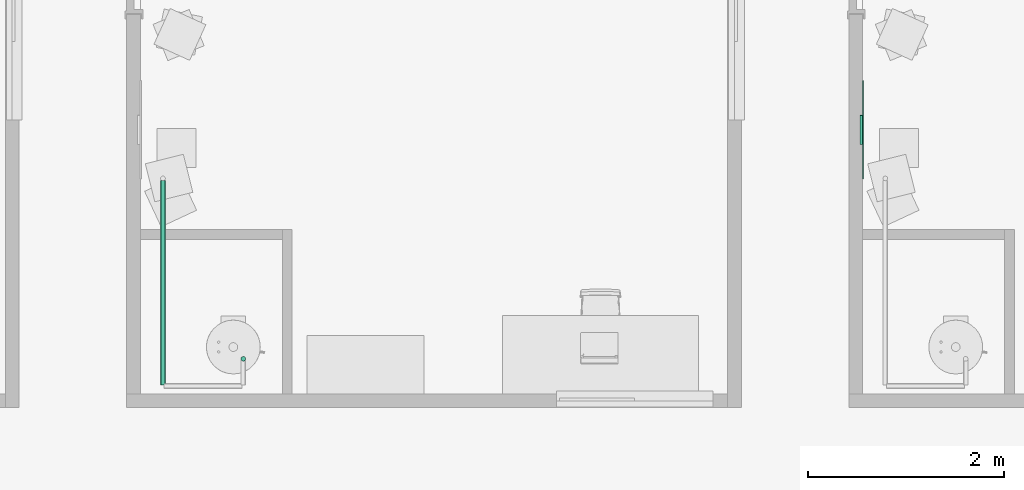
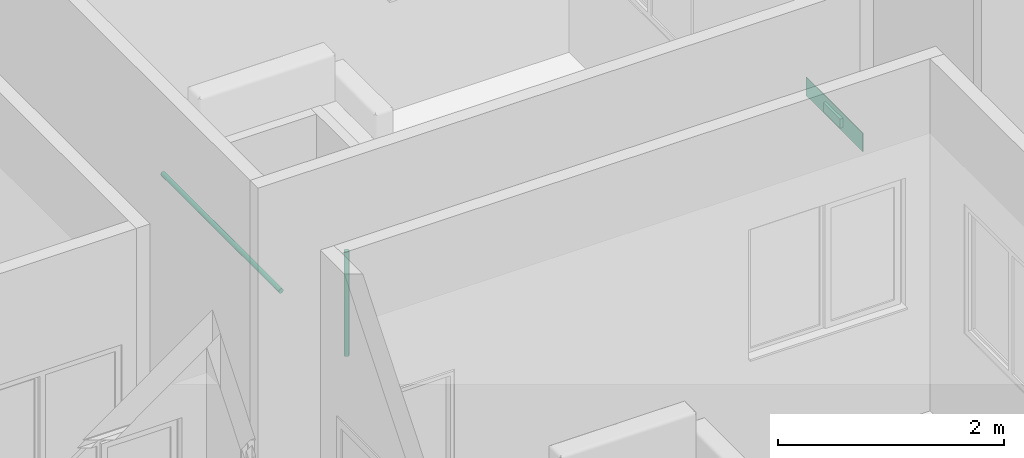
# One storey, part 29 of 72: 2 pipe segments, 1 air terminal.
"""IFC4 building model written with IfcOpenShell, lengths in centimetres."""

from ifc_helpers import new_model, entity, si_unit, converted_unit, derived_unit, direction, frame, origin, place, context, subcontext, project, spatial, arc, indexed_curve, outline, extrude, source, transform, mapped, material, constituent, constituent_set, type_object, type_shapes, element, save


model = new_model("IFC4")

# Units and contexts
model_context = context("Model", 3, precision=0.001, world=origin(), true_north=direction((6.123233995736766e-17, 1.0)))
body_context = subcontext(model_context, "Body", "Model", "MODEL_VIEW")
ifc_project = project(units=[si_unit("LENGTHUNIT", "METRE", prefix="CENTI"), si_unit("AREAUNIT", "SQUARE_METRE"), si_unit("VOLUMEUNIT", "CUBIC_METRE"), derived_unit("THERMALTRANSMITTANCEUNIT", [(si_unit("MASSUNIT", "GRAM", prefix="KILO"), 1), (si_unit("THERMODYNAMICTEMPERATUREUNIT", "KELVIN"), -1), (si_unit("TIMEUNIT", "SECOND"), -3)]), converted_unit("PLANEANGLEUNIT", "DEGREE", entity("IfcPlaneAngleMeasure", 0.017453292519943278), si_unit("PLANEANGLEUNIT", "RADIAN"), dimensions=[0, 0, 0, 0, 0, 0, 0]), derived_unit("MASSDENSITYUNIT", [(si_unit("MASSUNIT", "GRAM", prefix="KILO"), 1), (si_unit("LENGTHUNIT", "METRE"), -3)]), derived_unit("VAPORPERMEABILITYUNIT", [(si_unit("LENGTHUNIT", "METRE"), -1), (si_unit("TIMEUNIT", "SECOND"), 1)]), derived_unit("USERDEFINED", [(si_unit("MASSUNIT", "GRAM", prefix="KILO"), 1), (si_unit("TIMEUNIT", "SECOND"), -3), (si_unit("LENGTHUNIT", "METRE"), 3), (si_unit("ELECTRICCURRENTUNIT", "AMPERE"), -2)]), derived_unit("SPECIFICHEATCAPACITYUNIT", [(si_unit("THERMODYNAMICTEMPERATUREUNIT", "KELVIN"), -1), (si_unit("LENGTHUNIT", "METRE"), 2), (si_unit("TIMEUNIT", "SECOND"), -2)]), derived_unit("THERMALCONDUCTANCEUNIT", [(si_unit("MASSUNIT", "GRAM", prefix="KILO"), 1), (si_unit("THERMODYNAMICTEMPERATUREUNIT", "KELVIN"), -1), (si_unit("TIMEUNIT", "SECOND"), -3), (si_unit("LENGTHUNIT", "METRE"), 1)]), si_unit("PRESSUREUNIT", "PASCAL"), derived_unit("MODULUSOFELASTICITYUNIT", [(si_unit("MASSUNIT", "GRAM", prefix="KILO"), 1), (si_unit("LENGTHUNIT", "METRE"), -1), (si_unit("TIMEUNIT", "SECOND"), -2)]), derived_unit("THERMALEXPANSIONCOEFFICIENTUNIT", [(si_unit("THERMODYNAMICTEMPERATUREUNIT", "KELVIN"), -1)])], contexts=[model_context])

# Site, building, storey, space
site_placement = place(None, origin())
site = spatial("IfcSite", under=ifc_project, at=site_placement, Name="Default", CompositionType="ELEMENT")
building_placement = place(site_placement, origin())
building = spatial("IfcBuilding", under=site, at=building_placement, Name="IDS Escape Game Building", CompositionType="ELEMENT")
storey_placement = place(building_placement, frame((0.0, 0.0, 800.0)))
storey = spatial("IfcBuildingStorey", under=building, at=storey_placement, Name="02_Second Floor", CompositionType="ELEMENT", Elevation=800.0)
space_placement = place(storey_placement, origin())
space = spatial("IfcSpace", under=storey, at=space_placement, Name="94", CompositionType="ELEMENT", PredefinedType="NOTDEFINED")

# Air terminal
ifc_material_1 = material(Name="TB_LVC_referentievlak_00_gen_BERSnl", Category="BE Default")
ifc_constituent_1 = constituent(ifc_material_1, Name="TB_LVC_referentievlak_00_gen_BERSnl", Category="BE Default", fraction=0.00014157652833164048)
ifc_material_2 = material(Name="ARC_FME.h2_staal_00_gen_BERSnl", Category="h - metaal")
ifc_constituent_2 = constituent(ifc_material_2, Name="ARC_FME.h2_staal_00_gen_BERSnl", Category="h - metaal", fraction=0.9998584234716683)
ifc_constituent_set_1 = constituent_set(constituents=[ifc_constituent_1, ifc_constituent_2])
ifc_constituent_3 = constituent(ifc_material_1, Name="BE Referentievlak", Category="BE Default", fraction=0.00014157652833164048)
ifc_constituent_4 = constituent(ifc_material_2, Name="Terminals", Category="h - metaal", fraction=0.9998584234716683)
ifc_constituent_set_2 = constituent_set(constituents=[ifc_constituent_3, ifc_constituent_4])
air_terminal_type = type_object("IfcAirTerminalType", Name="TB_57_AIR_FB_aanzuigrooster - 1 rechthoekige aansluiting - calculated flow_gen_BERSnl:Air Terminal - Exhaust", PredefinedType="GRILLE", material=ifc_constituent_set_2)
shared_shape = source(origin(), body_context, "Body", "SweptSolid", [
    extrude(outline(indexed_curve([(-0.5, -2.0290176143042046e-15), (6.8507733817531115e-16, -0.5000000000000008), (0.5, 2.0290176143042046e-15), (-5.361679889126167e-16, 0.49999999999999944)], segments=[arc(1, 2, 3), arc(3, 4, 1)], self_intersect=False)), frame((0.0, 0.0, 0.0), z_axis=(1.7453292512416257e-05, 0.0, 1.0), x_axis=(0.0, 1.0, 0.0)), (0.0, 0.0, 1.0), 0.09999999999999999),
    extrude(outline(indexed_curve([(-14.900000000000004, -4.9), (14.900000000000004, -4.9), (14.900000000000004, 4.9), (-14.900000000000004, 4.9), (-14.900000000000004, -4.9)], self_intersect=False)), frame((-4.886921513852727e-05, 0.0, -2.7999999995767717)), (0.0, 0.0, 1.0), 2.7999999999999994),
    extrude(outline(indexed_curve([(-50.0, -10.0), (50.0, -10.0), (50.0, 10.0), (-50.0, 10.0), (-50.0, -10.0)], self_intersect=False)), frame((0.0, 0.0, 0.0), z_axis=(0.0, 0.0, 1.0), x_axis=(-1.0, 0.0, 0.0)), (0.0, 0.0, 1.0), 0.6999999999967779),
])
type_shapes(air_terminal_type, [shared_shape])
air_terminal_placement = place(space_placement, frame((1483.0, 2197.0, 24.0), z_axis=(1.0, 0.0, 0.0), x_axis=(0.0, 1.0, 0.0)))
element("IfcAirTerminal", 1, at=air_terminal_placement, inside=space, type_object=air_terminal_type, material=ifc_constituent_set_1, Name="TB_57_AIR_FB_aanzuigrooster - 1 rechthoekige aansluiting - calculated flow_gen_BERSnl:Air Terminal - Exhaust", ObjectType="TB_57_AIR_FB_aanzuigrooster - 1 rechthoekige aansluiting - calculated flow_gen_BERSnl:Air Terminal - Exhaust", PredefinedType="GRILLE", context=body_context, shape_type="MappedRepresentation", body=[
    mapped(shared_shape, transform((0.0, 0.0, 0.0), scale=1.0)),
])

# Pipe segments
pipe_segment_type = type_object("IfcPipeSegmentType", Name="Pipe Types:Piping Aluminum", PredefinedType="NOTDEFINED")
pipe_segment_1_placement = place(storey_placement, origin())
element("IfcPipeSegment", 2, at=pipe_segment_1_placement, inside=storey, type_object=pipe_segment_type, Name="Pipe Types:Piping Aluminum", ObjectType="Pipe Types:Piping Aluminum", PredefinedType="NOTDEFINED", context=body_context, shape_type="SweptSolid", body=[
    extrude(outline(indexed_curve([(2.412999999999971, 0.0), (1.7062486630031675, 1.7062486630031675), (0.0, 2.412999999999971), (-1.7062486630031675, 1.7062486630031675), (-2.412999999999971, 0.0), (-1.7062486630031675, -1.7062486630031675), (0.0, -2.412999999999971), (1.7062486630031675, -1.7062486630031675)], segments=[arc(1, 2, 3), arc(3, 4, 5), arc(5, 6, 7), arc(7, 8, 1)], self_intersect=False)), frame((850.1500000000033, 1962.9000000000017, 128.0), z_axis=(0.0, 0.0, 1.0), x_axis=(-1.0, 0.0, 0.0)), (0.0, 0.0, 1.0), 112.90000000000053),
])
pipe_segment_2_placement = place(storey_placement, origin())
element("IfcPipeSegment", 3, at=pipe_segment_2_placement, inside=storey, type_object=pipe_segment_type, Name="Pipe Types:Piping Aluminum", ObjectType="Pipe Types:Piping Aluminum", PredefinedType="NOTDEFINED", context=body_context, shape_type="SweptSolid", body=[
    extrude(outline(indexed_curve([(2.412999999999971, 0.0), (1.7062486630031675, 1.7062486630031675), (0.0, 2.412999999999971), (-1.7062486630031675, 1.7062486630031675), (-2.412999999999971, 0.0), (-1.7062486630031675, -1.7062486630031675), (0.0, -2.412999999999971), (1.7062486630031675, -1.7062486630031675)], segments=[arc(1, 2, 3), arc(3, 4, 5), arc(5, 6, 7), arc(7, 8, 1)], self_intersect=False)), frame((768.0467168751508, 1936.3648279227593, 242.0), z_axis=(0.0, 1.0, 0.0), x_axis=(1.0, 0.0, 0.0)), (0.0, 0.0, 1.0), 208.80000000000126),
])

save(model, "model.ifc")
